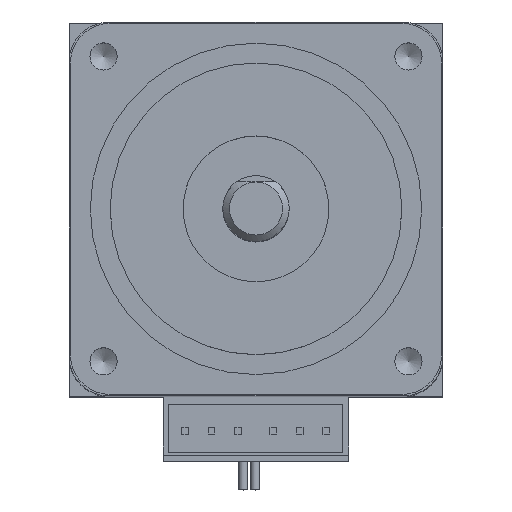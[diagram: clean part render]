
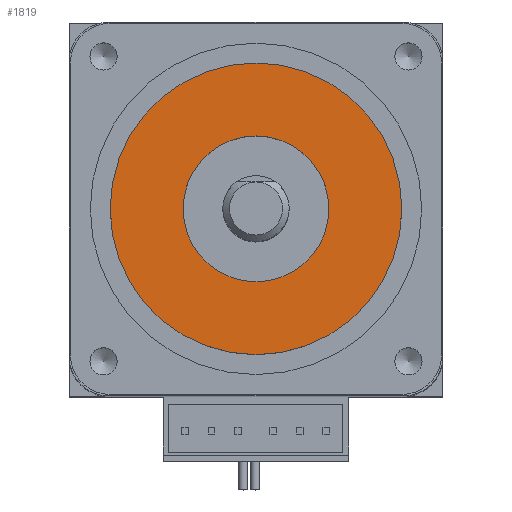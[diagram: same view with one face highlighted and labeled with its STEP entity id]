
A CAD part, top view. The second image highlights one B-rep face of the part: STEP entity #1819.
In plain terms, the highlighted planar face has unit normal (0, 0, 1).
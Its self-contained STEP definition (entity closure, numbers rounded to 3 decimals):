
#1819=ADVANCED_FACE('',(#2287,#2288),#2087,.F.);
#2087=PLANE('',#5645);
#2287=FACE_BOUND('',#2600,.T.);
#2288=FACE_BOUND('',#2601,.T.);
#2600=EDGE_LOOP('',(#3764));
#2601=EDGE_LOOP('',(#3765));
#3764=ORIENTED_EDGE('',*,*,#5083,.F.);
#3765=ORIENTED_EDGE('',*,*,#5085,.F.);
#4440=VERTEX_POINT('',#8795);
#4442=VERTEX_POINT('',#8800);
#5083=EDGE_CURVE('',#4440,#4440,#5312,.T.);
#5085=EDGE_CURVE('',#4442,#4442,#5314,.T.);
#5312=CIRCLE('',#5639,11.);
#5314=CIRCLE('',#5642,5.5);
#5639=AXIS2_PLACEMENT_3D('',#8794,#6766,#6767);
#5642=AXIS2_PLACEMENT_3D('',#8799,#6772,#6773);
#5645=AXIS2_PLACEMENT_3D('',#8804,#6778,#6779);
#6766=DIRECTION('',(0.,0.,-1.));
#6767=DIRECTION('',(1.,0.,0.));
#6772=DIRECTION('',(0.,0.,1.));
#6773=DIRECTION('',(1.,0.,0.));
#6778=DIRECTION('',(0.,0.,-1.));
#6779=DIRECTION('',(-1.,0.,0.));
#8794=CARTESIAN_POINT('',(0.,0.,1.5));
#8795=CARTESIAN_POINT('',(11.,0.,1.5));
#8799=CARTESIAN_POINT('',(0.,0.,1.5));
#8800=CARTESIAN_POINT('',(5.5,0.,1.5));
#8804=CARTESIAN_POINT('',(0.,0.,1.5));
